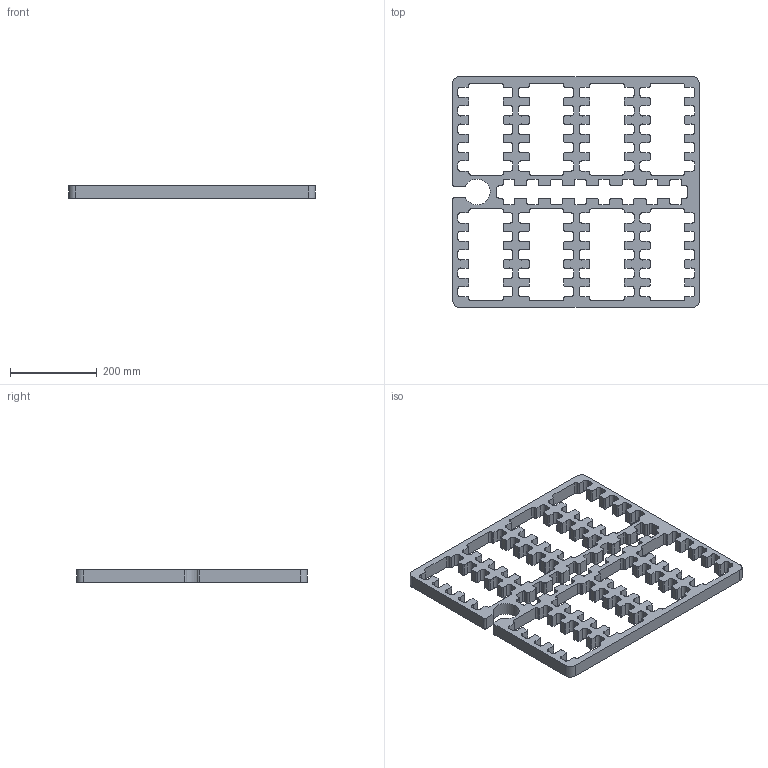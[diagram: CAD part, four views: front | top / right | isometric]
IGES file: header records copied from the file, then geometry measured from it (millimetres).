
Global section: file name: foam_1 v1; native system: unknown; preprocessor: unknown; author: unknown; organization: unknown; date: 20190213.104810; units: millimetre
Bounding box: 569.4 x 532.89 x 30 mm (x, y, z)
Volume: 3055851 mm3; surface area: 549193.7 mm2
Topology: 1 solids, 1 shells, 858 faces, 2568 edges, 1712 vertices
Faces by surface type: bspline 858
